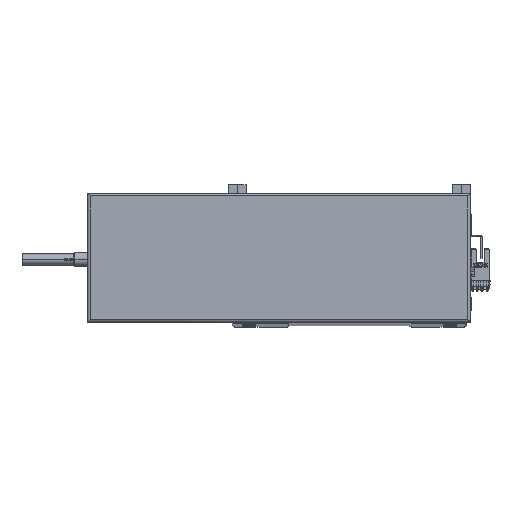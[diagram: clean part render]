
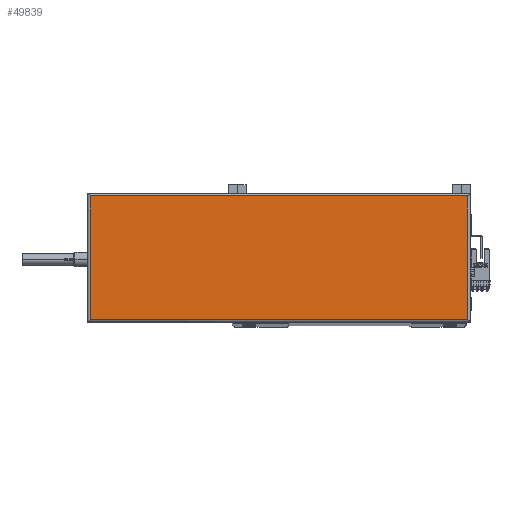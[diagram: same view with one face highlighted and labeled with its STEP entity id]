
A CAD part, top view. The second image highlights one B-rep face of the part: STEP entity #49839.
In plain terms, the highlighted planar face has unit normal (0, 0, 1).
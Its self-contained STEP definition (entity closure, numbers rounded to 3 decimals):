
#3866 = DIRECTION ( 'NONE',  ( 1., 0., 0. ) ) ;
#4714 = EDGE_LOOP ( 'NONE', ( #51052, #19251, #10567, #26942 ) ) ;
#6398 = VECTOR ( 'NONE', #10731, 1000. ) ;
#6480 = VECTOR ( 'NONE', #45309, 1000. ) ;
#6489 = CARTESIAN_POINT ( 'NONE',  ( 2., 2., 44.8 ) ) ;
#8159 = VECTOR ( 'NONE', #17872, 1000. ) ;
#10567 = ORIENTED_EDGE ( 'NONE', *, *, #11582, .T. ) ;
#10731 = DIRECTION ( 'NONE',  ( 0., 1., 0. ) ) ;
#10920 = PLANE ( 'NONE',  #37723 ) ;
#11096 = CARTESIAN_POINT ( 'NONE',  ( 265., 90., 44.8 ) ) ;
#11582 = EDGE_CURVE ( 'NONE', #50893, #50800, #34592, .T. ) ;
#12333 = DIRECTION ( 'NONE',  ( 0., 0., 1. ) ) ;
#13217 = CARTESIAN_POINT ( 'NONE',  ( 0., 88., 44.8 ) ) ;
#13697 = FACE_OUTER_BOUND ( 'NONE', #4714, .T. ) ;
#14587 = VERTEX_POINT ( 'NONE', #35851 ) ;
#16112 = CARTESIAN_POINT ( 'NONE',  ( 133.5, 45., 44.8 ) ) ;
#17872 = DIRECTION ( 'NONE',  ( -1., 0., 0. ) ) ;
#19251 = ORIENTED_EDGE ( 'NONE', *, *, #34714, .T. ) ;
#19530 = CARTESIAN_POINT ( 'NONE',  ( 2., 88., 44.8 ) ) ;
#19635 = DIRECTION ( 'NONE',  ( 0., -1., 0. ) ) ;
#22782 = CARTESIAN_POINT ( 'NONE',  ( 265., 88., 44.8 ) ) ;
#26942 = ORIENTED_EDGE ( 'NONE', *, *, #43037, .T. ) ;
#29051 = VERTEX_POINT ( 'NONE', #22782 ) ;
#29096 = CARTESIAN_POINT ( 'NONE',  ( 267., 2., 44.8 ) ) ;
#31359 = VECTOR ( 'NONE', #19635, 1000. ) ;
#34592 = LINE ( 'NONE', #49025, #31359 ) ;
#34714 = EDGE_CURVE ( 'NONE', #29051, #50893, #40894, .T. ) ;
#35851 = CARTESIAN_POINT ( 'NONE',  ( 265., 2., 44.8 ) ) ;
#37723 = AXIS2_PLACEMENT_3D ( 'NONE', #16112, #12333, #3866 ) ;
#40894 = LINE ( 'NONE', #13217, #8159 ) ;
#41390 = EDGE_CURVE ( 'NONE', #14587, #29051, #44263, .T. ) ;
#43037 = EDGE_CURVE ( 'NONE', #50800, #14587, #52032, .T. ) ;
#44263 = LINE ( 'NONE', #11096, #6398 ) ;
#45309 = DIRECTION ( 'NONE',  ( 1., 0., 0. ) ) ;
#49025 = CARTESIAN_POINT ( 'NONE',  ( 2., 0., 44.8 ) ) ;
#49839 = ADVANCED_FACE ( 'NONE', ( #13697 ), #10920, .T. ) ;
#50800 = VERTEX_POINT ( 'NONE', #6489 ) ;
#50893 = VERTEX_POINT ( 'NONE', #19530 ) ;
#51052 = ORIENTED_EDGE ( 'NONE', *, *, #41390, .T. ) ;
#52032 = LINE ( 'NONE', #29096, #6480 ) ;
